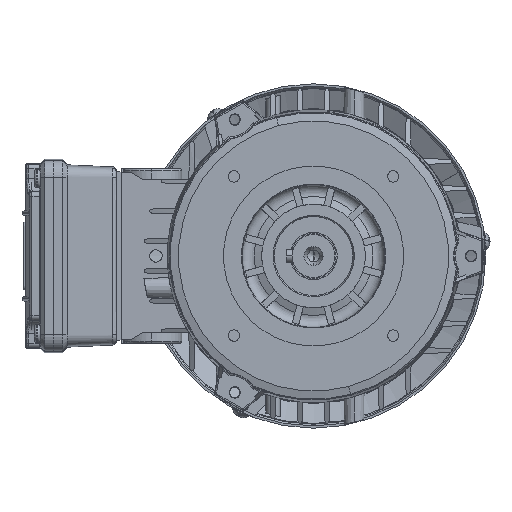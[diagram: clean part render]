
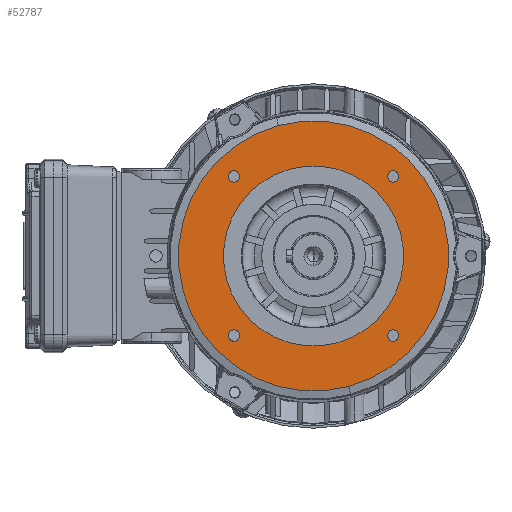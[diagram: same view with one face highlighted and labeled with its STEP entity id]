
A CAD part, left-side view. The second image highlights one B-rep face of the part: STEP entity #52787.
In plain terms, the highlighted planar face has unit normal (-1, 0, 0) as drawn and (0, 1, 0) by its records, which use the part's own axes.
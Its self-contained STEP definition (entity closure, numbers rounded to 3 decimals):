
#30 = CARTESIAN_POINT ( 'NONE',  ( -43.301, 34., 27.5 ) ) ;
#1349 = CARTESIAN_POINT ( 'NONE',  ( 0., 34., 0. ) ) ;
#1419 = CIRCLE ( 'NONE', #59535, 2.5 ) ;
#2461 = DIRECTION ( 'NONE',  ( 0., -1., 0. ) ) ;
#3245 = FACE_BOUND ( 'NONE', #21678, .T. ) ;
#6293 = DIRECTION ( 'NONE',  ( 0., -1., 0. ) ) ;
#8439 = DIRECTION ( 'NONE',  ( -1., 0., 0. ) ) ;
#8626 = EDGE_LOOP ( 'NONE', ( #56492, #14161 ) ) ;
#9097 = EDGE_CURVE ( 'NONE', #38889, #89906, #86147, .T. ) ;
#9733 = CIRCLE ( 'NONE', #71037, 2.5 ) ;
#11382 = CARTESIAN_POINT ( 'NONE',  ( -43.301, 34., 25. ) ) ;
#11733 = VERTEX_POINT ( 'NONE', #79566 ) ;
#13105 = CARTESIAN_POINT ( 'NONE',  ( -60., 34., 0. ) ) ;
#13237 = VERTEX_POINT ( 'NONE', #39298 ) ;
#13556 = EDGE_CURVE ( 'NONE', #86341, #26234, #13891, .T. ) ;
#13815 = ORIENTED_EDGE ( 'NONE', *, *, #15621, .T. ) ;
#13891 = CIRCLE ( 'NONE', #87478, 2.5 ) ;
#14161 = ORIENTED_EDGE ( 'NONE', *, *, #53357, .T. ) ;
#15621 = EDGE_CURVE ( 'NONE', #21086, #80829, #20348, .T. ) ;
#16516 = CARTESIAN_POINT ( 'NONE',  ( 0., 34., 0. ) ) ;
#17527 = FACE_BOUND ( 'NONE', #25902, .T. ) ;
#18496 = DIRECTION ( 'NONE',  ( 1., 0., 0. ) ) ;
#18990 = DIRECTION ( 'NONE',  ( 0., -1., 0. ) ) ;
#19698 = AXIS2_PLACEMENT_3D ( 'NONE', #1349, #50606, #8439 ) ;
#19714 = FACE_BOUND ( 'NONE', #45185, .T. ) ;
#20348 = CIRCLE ( 'NONE', #21531, 2.5 ) ;
#20516 = CIRCLE ( 'NONE', #56944, 2.5 ) ;
#21086 = VERTEX_POINT ( 'NONE', #42039 ) ;
#21516 = CARTESIAN_POINT ( 'NONE',  ( -25., 34., -43.301 ) ) ;
#21531 = AXIS2_PLACEMENT_3D ( 'NONE', #61167, #18990, #68224 ) ;
#21678 = EDGE_LOOP ( 'NONE', ( #13815, #70602 ) ) ;
#23418 = CARTESIAN_POINT ( 'NONE',  ( 25., 34., 43.301 ) ) ;
#23609 = DIRECTION ( 'NONE',  ( -1., 0., 0. ) ) ;
#25492 = DIRECTION ( 'NONE',  ( 0., -1., 0. ) ) ;
#25813 = ORIENTED_EDGE ( 'NONE', *, *, #70728, .F. ) ;
#25902 = EDGE_LOOP ( 'NONE', ( #39199, #25813 ) ) ;
#26109 = DIRECTION ( 'NONE',  ( 0., 1., 0. ) ) ;
#26234 = VERTEX_POINT ( 'NONE', #60529 ) ;
#26751 = CARTESIAN_POINT ( 'NONE',  ( 25., 34., 40.801 ) ) ;
#28630 = DIRECTION ( 'NONE',  ( 1., 0., 0. ) ) ;
#29611 = EDGE_LOOP ( 'NONE', ( #39643, #45675 ) ) ;
#30211 = CARTESIAN_POINT ( 'NONE',  ( 43.301, 34., -22.5 ) ) ;
#30509 = CARTESIAN_POINT ( 'NONE',  ( 60., 34., 0. ) ) ;
#30519 = DIRECTION ( 'NONE',  ( 1., 0., 0. ) ) ;
#31488 = VERTEX_POINT ( 'NONE', #26751 ) ;
#33308 = EDGE_LOOP ( 'NONE', ( #53794, #66352 ) ) ;
#34065 = CARTESIAN_POINT ( 'NONE',  ( 0., 34., 0. ) ) ;
#36269 = FACE_BOUND ( 'NONE', #29611, .T. ) ;
#38006 = CARTESIAN_POINT ( 'NONE',  ( 43.301, 34., -25. ) ) ;
#38495 = FACE_BOUND ( 'NONE', #33308, .T. ) ;
#38889 = VERTEX_POINT ( 'NONE', #68159 ) ;
#39199 = ORIENTED_EDGE ( 'NONE', *, *, #9097, .F. ) ;
#39298 = CARTESIAN_POINT ( 'NONE',  ( 25., 34., 45.801 ) ) ;
#39643 = ORIENTED_EDGE ( 'NONE', *, *, #78892, .T. ) ;
#41146 = DIRECTION ( 'NONE',  ( -1., 0., 0. ) ) ;
#41903 = DIRECTION ( 'NONE',  ( 0., -1., 0. ) ) ;
#42039 = CARTESIAN_POINT ( 'NONE',  ( -43.301, 34., 22.5 ) ) ;
#42250 = AXIS2_PLACEMENT_3D ( 'NONE', #30509, #2461, #51741 ) ;
#42681 = EDGE_CURVE ( 'NONE', #58744, #87779, #20516, .T. ) ;
#42753 = CIRCLE ( 'NONE', #47529, 2.5 ) ;
#43463 = AXIS2_PLACEMENT_3D ( 'NONE', #16516, #65746, #23609 ) ;
#43706 = EDGE_CURVE ( 'NONE', #31488, #13237, #67848, .T. ) ;
#44499 = CARTESIAN_POINT ( 'NONE',  ( -25., 34., -40.801 ) ) ;
#45075 = DIRECTION ( 'NONE',  ( 1., 0., 0. ) ) ;
#45185 = EDGE_LOOP ( 'NONE', ( #90920, #56765 ) ) ;
#45675 = ORIENTED_EDGE ( 'NONE', *, *, #13556, .T. ) ;
#47529 = AXIS2_PLACEMENT_3D ( 'NONE', #84042, #41903, #91169 ) ;
#48431 = CARTESIAN_POINT ( 'NONE',  ( 43.301, 34., -25. ) ) ;
#50606 = DIRECTION ( 'NONE',  ( 0., 1., 0. ) ) ;
#51741 = DIRECTION ( 'NONE',  ( 1., 0., 0. ) ) ;
#52247 = EDGE_CURVE ( 'NONE', #80829, #21086, #9733, .T. ) ;
#52787 = ADVANCED_FACE ( 'NONE', ( #3245, #19714, #38495, #36269, #17527, #90237 ), #79681, .F. ) ;
#53357 = EDGE_CURVE ( 'NONE', #11733, #72244, #57073, .T. ) ;
#53794 = ORIENTED_EDGE ( 'NONE', *, *, #42681, .T. ) ;
#55506 = DIRECTION ( 'NONE',  ( 1., 0., 0. ) ) ;
#56492 = ORIENTED_EDGE ( 'NONE', *, *, #89864, .T. ) ;
#56765 = ORIENTED_EDGE ( 'NONE', *, *, #77506, .T. ) ;
#56944 = AXIS2_PLACEMENT_3D ( 'NONE', #48431, #6293, #55506 ) ;
#57073 = CIRCLE ( 'NONE', #43463, 60. ) ;
#58353 = CIRCLE ( 'NONE', #75113, 2.5 ) ;
#58744 = VERTEX_POINT ( 'NONE', #59879 ) ;
#59535 = AXIS2_PLACEMENT_3D ( 'NONE', #38006, #87204, #45075 ) ;
#59879 = CARTESIAN_POINT ( 'NONE',  ( 43.301, 34., -27.5 ) ) ;
#60529 = CARTESIAN_POINT ( 'NONE',  ( -25., 34., -45.801 ) ) ;
#60651 = DIRECTION ( 'NONE',  ( 0., -1., 0. ) ) ;
#61167 = CARTESIAN_POINT ( 'NONE',  ( -43.301, 34., 25. ) ) ;
#62955 = CARTESIAN_POINT ( 'NONE',  ( 40., 34., 0. ) ) ;
#63277 = EDGE_CURVE ( 'NONE', #87779, #58744, #1419, .T. ) ;
#65746 = DIRECTION ( 'NONE',  ( 0., 1., 0. ) ) ;
#66352 = ORIENTED_EDGE ( 'NONE', *, *, #63277, .T. ) ;
#67616 = CARTESIAN_POINT ( 'NONE',  ( 25., 34., 43.301 ) ) ;
#67848 = CIRCLE ( 'NONE', #89462, 2.5 ) ;
#68159 = CARTESIAN_POINT ( 'NONE',  ( -40., 34., 0. ) ) ;
#68224 = DIRECTION ( 'NONE',  ( 1., 0., 0. ) ) ;
#68233 = CARTESIAN_POINT ( 'NONE',  ( 0., 34., 0. ) ) ;
#70439 = AXIS2_PLACEMENT_3D ( 'NONE', #34065, #83282, #41146 ) ;
#70602 = ORIENTED_EDGE ( 'NONE', *, *, #52247, .T. ) ;
#70718 = DIRECTION ( 'NONE',  ( 0., -1., 0. ) ) ;
#70728 = EDGE_CURVE ( 'NONE', #89906, #38889, #88809, .T. ) ;
#71037 = AXIS2_PLACEMENT_3D ( 'NONE', #11382, #60651, #18496 ) ;
#72244 = VERTEX_POINT ( 'NONE', #13105 ) ;
#72616 = DIRECTION ( 'NONE',  ( 0., -1., 0. ) ) ;
#74680 = DIRECTION ( 'NONE',  ( 1., 0., 0. ) ) ;
#75113 = AXIS2_PLACEMENT_3D ( 'NONE', #23418, #72616, #30519 ) ;
#75287 = DIRECTION ( 'NONE',  ( -1., 0., 0. ) ) ;
#77506 = EDGE_CURVE ( 'NONE', #13237, #31488, #58353, .T. ) ;
#78892 = EDGE_CURVE ( 'NONE', #26234, #86341, #42753, .T. ) ;
#79566 = CARTESIAN_POINT ( 'NONE',  ( 60., 34., 0. ) ) ;
#79662 = CIRCLE ( 'NONE', #70439, 60. ) ;
#79681 = PLANE ( 'NONE',  #42250 ) ;
#80829 = VERTEX_POINT ( 'NONE', #30 ) ;
#81212 = AXIS2_PLACEMENT_3D ( 'NONE', #68233, #26109, #75287 ) ;
#83282 = DIRECTION ( 'NONE',  ( 0., 1., 0. ) ) ;
#84042 = CARTESIAN_POINT ( 'NONE',  ( -25., 34., -43.301 ) ) ;
#86147 = CIRCLE ( 'NONE', #19698, 40. ) ;
#86341 = VERTEX_POINT ( 'NONE', #44499 ) ;
#87204 = DIRECTION ( 'NONE',  ( 0., -1., 0. ) ) ;
#87478 = AXIS2_PLACEMENT_3D ( 'NONE', #21516, #70718, #28630 ) ;
#87779 = VERTEX_POINT ( 'NONE', #30211 ) ;
#88809 = CIRCLE ( 'NONE', #81212, 40. ) ;
#89462 = AXIS2_PLACEMENT_3D ( 'NONE', #67616, #25492, #74680 ) ;
#89864 = EDGE_CURVE ( 'NONE', #72244, #11733, #79662, .T. ) ;
#89906 = VERTEX_POINT ( 'NONE', #62955 ) ;
#90237 = FACE_OUTER_BOUND ( 'NONE', #8626, .T. ) ;
#90920 = ORIENTED_EDGE ( 'NONE', *, *, #43706, .T. ) ;
#91169 = DIRECTION ( 'NONE',  ( 1., 0., 0. ) ) ;
